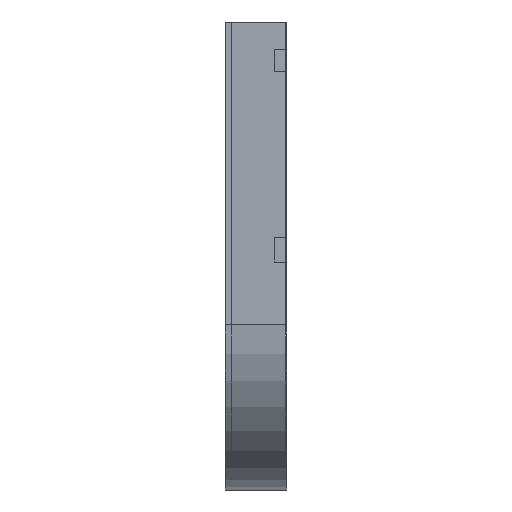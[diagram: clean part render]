
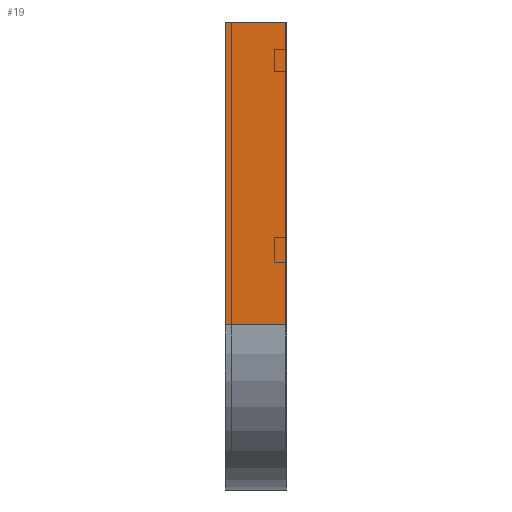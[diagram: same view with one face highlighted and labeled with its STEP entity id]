
A CAD part, left-side view. The second image highlights one B-rep face of the part: STEP entity #19.
In plain terms, the highlighted planar face has unit normal (-1, 0, 0).
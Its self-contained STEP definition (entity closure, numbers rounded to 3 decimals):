
#19 = ADVANCED_FACE ( 'NONE', ( #1883 ), #410, .F. ) ;
#59 = DIRECTION ( 'NONE',  ( 0., -1., 0. ) ) ;
#91 = CARTESIAN_POINT ( 'NONE',  ( 0., 0., 0. ) ) ;
#113 = EDGE_CURVE ( 'NONE', #1151, #1431, #1647, .T. ) ;
#115 = CARTESIAN_POINT ( 'NONE',  ( 0., 0., 0. ) ) ;
#140 = LINE ( 'NONE', #1112, #393 ) ;
#233 = CARTESIAN_POINT ( 'NONE',  ( 0., 0., -550. ) ) ;
#239 = LINE ( 'NONE', #905, #392 ) ;
#307 = AXIS2_PLACEMENT_3D ( 'NONE', #115, #1064, #913 ) ;
#392 = VECTOR ( 'NONE', #1695, 1000. ) ;
#393 = VECTOR ( 'NONE', #1392, 1000. ) ;
#410 = PLANE ( 'NONE',  #307 ) ;
#543 = VERTEX_POINT ( 'NONE', #807 ) ;
#680 = ORIENTED_EDGE ( 'NONE', *, *, #1889, .T. ) ;
#735 = EDGE_CURVE ( 'NONE', #543, #1509, #888, .T. ) ;
#807 = CARTESIAN_POINT ( 'NONE',  ( 0., 112.5, 0. ) ) ;
#888 = LINE ( 'NONE', #1846, #1998 ) ;
#899 = EDGE_LOOP ( 'NONE', ( #1868, #1435, #680, #986 ) ) ;
#905 = CARTESIAN_POINT ( 'NONE',  ( 0., 112.5, 0. ) ) ;
#913 = DIRECTION ( 'NONE',  ( 0., 0., -1. ) ) ;
#986 = ORIENTED_EDGE ( 'NONE', *, *, #113, .T. ) ;
#1064 = DIRECTION ( 'NONE',  ( 1., 0., 0. ) ) ;
#1091 = CARTESIAN_POINT ( 'NONE',  ( 0., 112.5, -550. ) ) ;
#1112 = CARTESIAN_POINT ( 'NONE',  ( 0., 0., 0. ) ) ;
#1151 = VERTEX_POINT ( 'NONE', #1091 ) ;
#1179 = DIRECTION ( 'NONE',  ( 0., -1., 0. ) ) ;
#1328 = VECTOR ( 'NONE', #59, 1000. ) ;
#1392 = DIRECTION ( 'NONE',  ( 0., 0., -1. ) ) ;
#1431 = VERTEX_POINT ( 'NONE', #233 ) ;
#1435 = ORIENTED_EDGE ( 'NONE', *, *, #735, .F. ) ;
#1482 = CARTESIAN_POINT ( 'NONE',  ( 0., 0., -550. ) ) ;
#1509 = VERTEX_POINT ( 'NONE', #91 ) ;
#1647 = LINE ( 'NONE', #1482, #1328 ) ;
#1695 = DIRECTION ( 'NONE',  ( 0., 0., -1. ) ) ;
#1846 = CARTESIAN_POINT ( 'NONE',  ( 0., 0., 0. ) ) ;
#1868 = ORIENTED_EDGE ( 'NONE', *, *, #2027, .F. ) ;
#1883 = FACE_OUTER_BOUND ( 'NONE', #899, .T. ) ;
#1889 = EDGE_CURVE ( 'NONE', #543, #1151, #239, .T. ) ;
#1998 = VECTOR ( 'NONE', #1179, 1000. ) ;
#2027 = EDGE_CURVE ( 'NONE', #1509, #1431, #140, .T. ) ;
